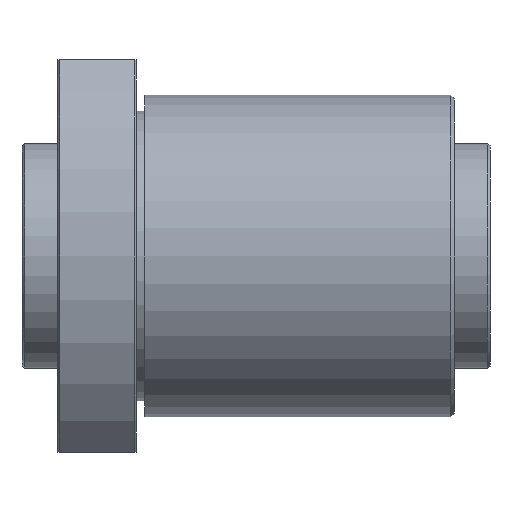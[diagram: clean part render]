
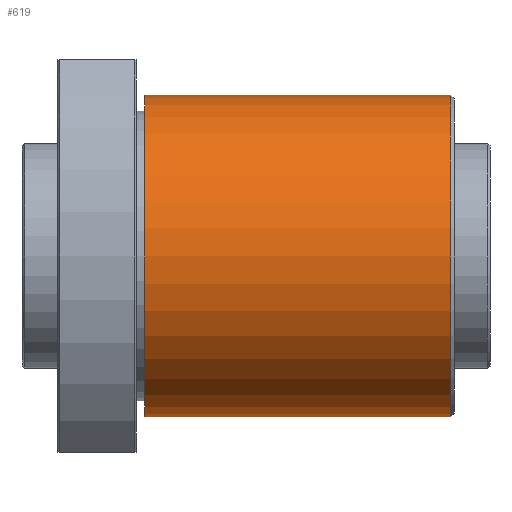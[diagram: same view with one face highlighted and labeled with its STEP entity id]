
A CAD part, front view. The second image highlights one B-rep face of the part: STEP entity #619.
In plain terms, the highlighted cylindrical face has radius 45 mm (diameter 90 mm), a full revolution.
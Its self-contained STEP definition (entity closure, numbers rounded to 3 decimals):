
#61=CYLINDRICAL_SURFACE('',#724,45.);
#152=ORIENTED_EDGE('',*,*,#270,.T.);
#153=ORIENTED_EDGE('',*,*,#269,.F.);
#269=EDGE_CURVE('',#328,#328,#377,.T.);
#270=EDGE_CURVE('',#329,#329,#378,.T.);
#328=VERTEX_POINT('',#1136);
#329=VERTEX_POINT('',#1139);
#377=CIRCLE('',#723,45.);
#378=CIRCLE('',#725,45.);
#435=EDGE_LOOP('',(#152));
#436=EDGE_LOOP('',(#153));
#531=FACE_BOUND('',#435,.T.);
#532=FACE_BOUND('',#436,.T.);
#619=ADVANCED_FACE('',(#531,#532),#61,.T.);
#723=AXIS2_PLACEMENT_3D('',#1135,#878,#879);
#724=AXIS2_PLACEMENT_3D('',#1137,#880,#881);
#725=AXIS2_PLACEMENT_3D('',#1138,#882,#883);
#878=DIRECTION('',(1.,0.,0.));
#879=DIRECTION('',(0.,0.,-1.));
#880=DIRECTION('',(1.,0.,0.));
#881=DIRECTION('',(0.,0.,-1.));
#882=DIRECTION('',(1.,0.,0.));
#883=DIRECTION('',(0.,0.,-1.));
#1135=CARTESIAN_POINT('',(110.,0.,0.));
#1136=CARTESIAN_POINT('',(110.,0.,-45.));
#1137=CARTESIAN_POINT('',(50.,0.,0.));
#1138=CARTESIAN_POINT('',(24.3,0.,0.));
#1139=CARTESIAN_POINT('',(24.3,0.,-45.));
